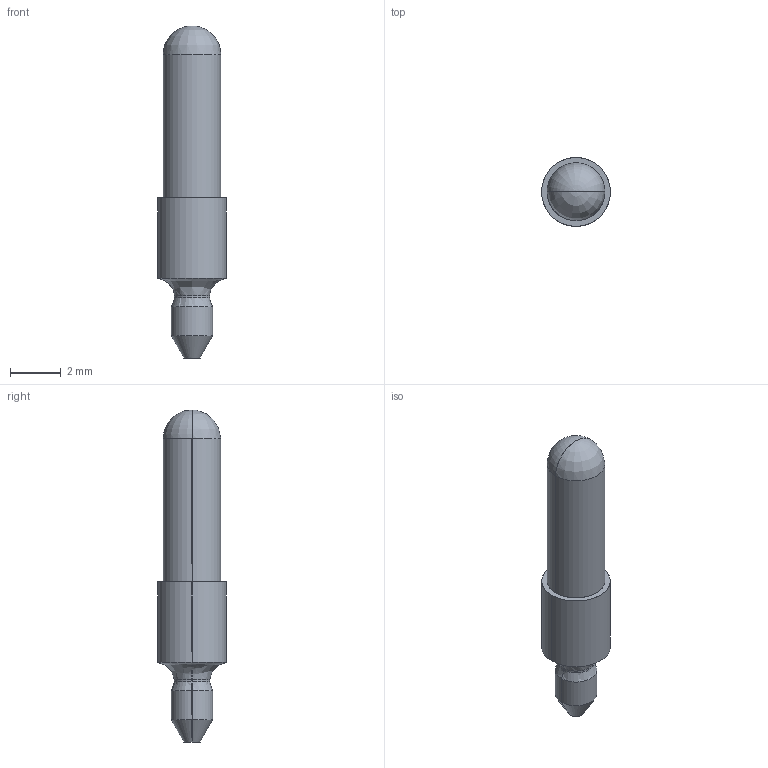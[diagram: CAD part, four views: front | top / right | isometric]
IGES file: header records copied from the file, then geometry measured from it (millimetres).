
Start section: SolidWorks IGES file using analytic representation for surfaces
Global section: file name: \\PSSILO\catalogs\CONTENTCENTRAL\Slide Stop Plunger\Cache\8D5699D4-DFD7-49D9-A8F4-D7EC6E5C0DE4.IGS; native system: SolidWorks 2009; preprocessor: SolidWorks 2009; author: partstream; date: 090716.111452; units: inch
Bounding box: 2.72 x 2.72 x 13.1 mm (x, y, z)
Surface area: 95.4 mm2 (no closed solid volume)
Topology: 0 solids, 0 shells, 18 faces, 144 edges, 142 vertices
Faces by surface type: revolution 12, bspline 6
